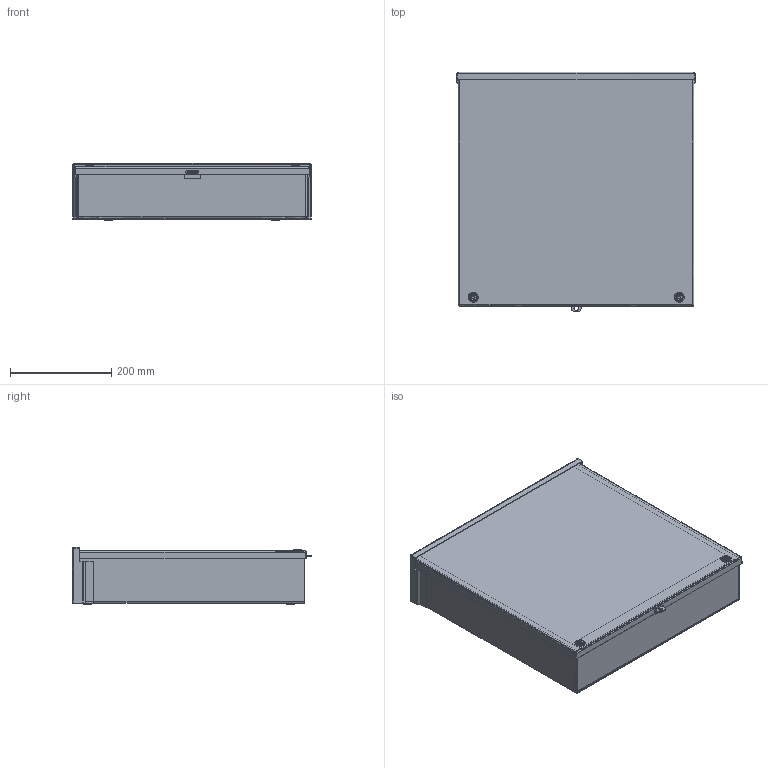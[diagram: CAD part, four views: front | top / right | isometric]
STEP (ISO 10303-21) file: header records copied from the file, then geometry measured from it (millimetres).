
FILE_DESCRIPTION((''),'2;1');
FILE_NAME('D:\scratch\ideas\a18r184nk.stp','2007-01-22T07:40:12',( 'User'),('SDRC'),'I-DEAS Master Series 9','UNIX','Yes');
FILE_SCHEMA(('AUTOMOTIVE_DESIGN { 1 0 10303 214 0 1 1 1 }'));
Length unit declared in the file: inch
Products named in the file (7): 13392; 3rsc_wmt_body_18x18x4; 3rsc_top_18x4; 3rsc_bottom_18x4; 3rsc_body_18x18x4; 3rsc_cover_18x18; 78124001
Assembly tree (6 placements, depth 3):
  13392
    3rsc_wmt_body_18x18x4
      3rsc_top_18x4
      3rsc_bottom_18x4
      3rsc_body_18x18x4
    3rsc_cover_18x18
    78124001
Bounding box: 469.9 x 473.15 x 113.03 mm (x, y, z)
Volume: 945673.6 mm3; surface area: 1364019.7 mm2
Topology: 5 solids, 5 shells, 255 faces, 643 edges, 408 vertices
Faces by surface type: bspline 255
Entity records: 8154 total; most frequent: CARTESIAN_POINT 4019, ORIENTED_EDGE 1286, EDGE_CURVE 643, VERTEX_POINT 408, QUASI_UNIFORM_CURVE 312, EDGE_LOOP 293, FACE_OUTER_BOUND 255, ADVANCED_FACE 255
